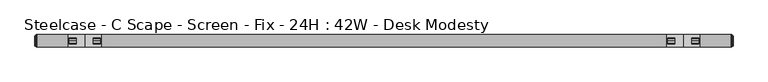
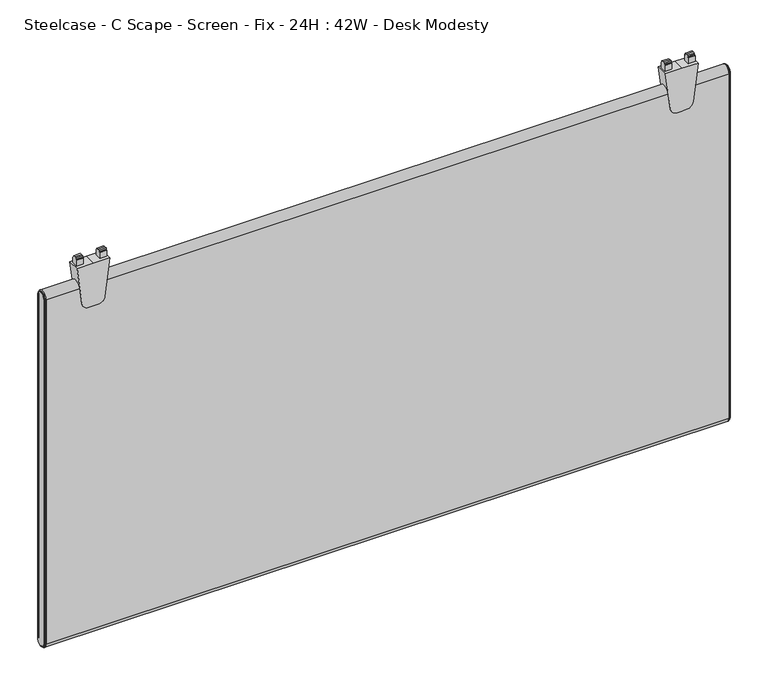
"""IFC4 building model written with IfcOpenShell, lengths in millimetres: furniture geometry, Steelcase - C Scape - Screen - Fix - 24H : 42W - Desk Modesty."""

from ifc_helpers import new_model, si_unit, point, frame, frame_2d, origin, place, context, project, spatial, polyline, circle_curve, ellipse_curve, trimmed, segment, composite_curve, outline, extrude, source, transform, mapped, element, save
from ifc_brep_helpers import plane_surface, cylinder_surface, revolved_surface, advanced_brep


def steelcase_c_scape_screen_fix_24h_42w_desk_modesty_cde4ed97(model_context):
    return source(origin(), model_context, "Body", "SolidModel", [
        extrude(outline(composite_curve([segment(polyline([(703.414888, 101.4730434), (703.414888, 76.2001674), (703.414888, 50.9272915), (643.0897579, 58.3341853)]), True, "CONTINUOUS"), segment(trimmed(circle_curve(frame_2d((644.4116282, 69.1001018)), 10.8467645), [point((643.0897579, 58.3341853))], [point((633.5648638, 69.1001018))], False, "CARTESIAN"), True, "CONTINUOUS"), segment(polyline([(633.5648638, 69.1001018), (633.5648638, 76.2001674), (633.5648638, 83.300233)]), True, "CONTINUOUS"), segment(trimmed(circle_curve(frame_2d((644.4116282, 83.300233)), 10.8467645), [point((633.5648638, 83.300233))], [point((643.0897579, 94.0661495))], False, "CARTESIAN"), True, "CONTINUOUS"), segment(polyline([(643.0897579, 94.0661495), (703.414888, 101.4730434)]), True, "CONTINUOUS")], self_intersect=False)), frame((0.0, -9.525, 0.0), z_axis=(0.0, 1.0, 0.0), x_axis=(0.0, 0.0, 1.0)), (0.0, 0.0, 1.0), 19.05),
        extrude(outline(polyline([(-4.5465975, 703.414888), (-4.5465975, 713.3208967), (-4.0139265, 714.2073252), (-2.9972008, 714.2073252), (-2.9972008, 716.4425812), (0.0, 716.534), (2.9972008, 716.4425812), (2.9972008, 714.2073252), (4.0139265, 714.2073252), (4.5465975, 713.3208967), (4.5465975, 703.414888), (0.0, 703.414888), (-4.5465975, 703.414888)])), frame((88.9267162, 0.0, 0.0), z_axis=(1.0, 0.0, 0.0), x_axis=(0.0, 1.0, 0.0)), (0.0, 0.0, 1.0), 10.7813187),
        extrude(outline(polyline([(-4.5465975, 703.414888), (-4.5465975, 713.3208967), (-4.0139265, 714.2073252), (-2.9972008, 714.2073252), (-2.9972008, 716.4425812), (0.0, 716.534), (2.9972008, 716.4425812), (2.9972008, 714.2073252), (4.0139265, 714.2073252), (4.5465975, 713.3208967), (4.5465975, 703.414888), (0.0, 703.414888), (-4.5465975, 703.414888)])), frame((52.6923, 0.0, 0.0), z_axis=(1.0, 0.0, 0.0), x_axis=(0.0, 1.0, 0.0)), (0.0, 0.0, 1.0), 10.7813187),
        extrude(outline(composite_curve([segment(polyline([(703.414888, 1015.1107132), (703.414888, 989.8378372), (703.414888, 964.5649612), (643.0897579, 971.9718551)]), True, "CONTINUOUS"), segment(trimmed(circle_curve(frame_2d((644.4116282, 982.7377716)), 10.8467645), [point((643.0897579, 971.9718551))], [point((633.5648638, 982.7377716))], False, "CARTESIAN"), True, "CONTINUOUS"), segment(polyline([(633.5648638, 982.7377716), (633.5648638, 989.8378372), (633.5648638, 996.9379028)]), True, "CONTINUOUS"), segment(trimmed(circle_curve(frame_2d((644.4116282, 996.9379028)), 10.8467645), [point((633.5648638, 996.9379028))], [point((643.0897579, 1007.7038193))], False, "CARTESIAN"), True, "CONTINUOUS"), segment(polyline([(643.0897579, 1007.7038193), (703.414888, 1015.1107132)]), True, "CONTINUOUS")], self_intersect=False)), frame((0.0, -9.525, 0.0), z_axis=(0.0, 1.0, 0.0), x_axis=(0.0, 0.0, 1.0)), (0.0, 0.0, 1.0), 19.05),
        extrude(outline(polyline([(-4.5465975, 703.414888), (-4.5465975, 713.3208967), (-4.0139265, 714.2073252), (-2.9972008, 714.2073252), (-2.9972008, 716.4425812), (0.0, 716.534), (2.9972008, 716.4425812), (2.9972008, 714.2073252), (4.0139265, 714.2073252), (4.5465975, 713.3208967), (4.5465975, 703.414888), (0.0, 703.414888), (-4.5465975, 703.414888)])), frame((1002.564386, 0.0, 0.0), z_axis=(1.0, 0.0, 0.0), x_axis=(0.0, 1.0, 0.0)), (0.0, 0.0, 1.0), 10.7813187),
        extrude(outline(polyline([(-4.5465975, 703.414888), (-4.5465975, 713.3208967), (-4.0139265, 714.2073252), (-2.9972008, 714.2073252), (-2.9972008, 716.4425812), (0.0, 716.534), (2.9972008, 716.4425812), (2.9972008, 714.2073252), (4.0139265, 714.2073252), (4.5465975, 713.3208967), (4.5465975, 703.414888), (0.0, 703.414888), (-4.5465975, 703.414888)])), frame((966.3299698, 0.0, 0.0), z_axis=(1.0, 0.0, 0.0), x_axis=(0.0, 1.0, 0.0)), (0.0, 0.0, 1.0), 10.7813187),
        advanced_brep(
        [(1063.2486613, -9.525, 668.909), (1063.2486613, 9.525, 668.909), (1063.2486613, 9.525, 103.759), (1063.2486613, -9.525, 103.759), (1066.0426613, 7.4929583, 668.909), (1066.0426613, -7.4929583, 668.909), (1066.0426613, -7.4929583, 103.759), (1066.0426613, 7.4929583, 103.759), (1065.5346545, -8.0009651, 668.909), (1065.5346545, 8.0009651, 668.909), (1064.2646613, 8.0009651, 668.909), (1064.2646613, -8.0009651, 668.909), (1064.2646613, -8.8204932, 668.909), (1064.2646613, 8.8204932, 668.909), (1064.2646613, -8.0009651, 103.759), (1065.5346545, -8.0009651, 103.759), (1064.2646613, -8.8204932, 103.759), (1064.2646613, 8.0009651, 103.759), (1065.5346545, 8.0009651, 103.759), (1064.2646613, 8.8204932, 103.759)],
        [
            (0, 1, circle_curve(frame((1063.2486613, 0.0, 668.909), z_axis=(-1.0, 0.0, 0.0), x_axis=(0.0, 1.0, 0.0)), 9.525)),
            (1, 2),
            (2, 3, circle_curve(frame((1063.2486613, 0.0, 103.759), z_axis=(-1.0, 0.0, 0.0), x_axis=(0.0, -1.0, 0.0)), 9.525)),
            (3, 0),
            (4, 5, circle_curve(frame((1066.0426613, 0.0, 668.909), z_axis=(1.0, 0.0, 0.0), x_axis=(0.0, 1.0, 0.0)), 7.4929583)),
            (5, 6),
            (6, 7, circle_curve(frame((1066.0426613, 0.0, 103.759), z_axis=(1.0, 0.0, 0.0), x_axis=(0.0, -1.0, 0.0)), 7.4929583)),
            (7, 4),
            (8, 9, circle_curve(frame((1065.5346545, 0.0, 668.909), z_axis=(-1.0, 0.0, 0.0), x_axis=(0.0, 1.0, 0.0)), 8.0009651)),
            (9, 10),
            (10, 11, circle_curve(frame((1064.2646613, 0.0, 668.909), z_axis=(1.0, 0.0, 0.0), x_axis=(0.0, 1.0, 0.0)), 8.0009651)),
            (11, 8),
            (8, 5, circle_curve(frame((1065.5346545, -7.4929583, 668.909), z_axis=(0.0, 0.0, 1.0), x_axis=(0.0, -1.0, 0.0)), 0.5080068)),
            (4, 9, circle_curve(frame((1065.5346545, 7.4929583, 668.909), z_axis=(0.0, 0.0, 1.0), x_axis=(0.0, 1.0, 0.0)), 0.5080068)),
            (12, 13, circle_curve(frame((1064.2646613, 0.0, 668.909), z_axis=(-1.0, 0.0, 0.0), x_axis=(0.0, 1.0, 0.0)), 8.8204932)),
            (13, 1, circle_curve(frame((1063.1806211, 8.3420139, 668.909), z_axis=(0.0, 0.0, 1.0), x_axis=(0.0, 1.0, 0.0)), 1.1849411)),
            (0, 12, circle_curve(frame((1063.1806211, -8.3420139, 668.909), z_axis=(0.0, 0.0, 1.0), x_axis=(0.0, -1.0, 0.0)), 1.1849411)),
            (11, 14),
            (14, 15),
            (15, 8),
            (15, 6, circle_curve(frame((1065.5346545, -7.4929583, 103.759), z_axis=(0.0, 0.0, 1.0), x_axis=(0.0, -1.0, 0.0)), 0.5080068)),
            (3, 16, circle_curve(frame((1063.1806211, -8.3420139, 103.759), z_axis=(0.0, 0.0, 1.0), x_axis=(0.0, -1.0, 0.0)), 1.1849411)),
            (16, 12),
            (14, 17, circle_curve(frame((1064.2646613, 0.0, 103.759), z_axis=(1.0, 0.0, 0.0), x_axis=(0.0, -1.0, 0.0)), 8.0009651)),
            (17, 18),
            (18, 15, circle_curve(frame((1065.5346545, 0.0, 103.759), z_axis=(-1.0, 0.0, 0.0), x_axis=(0.0, -1.0, 0.0)), 8.0009651)),
            (18, 7, circle_curve(frame((1065.5346545, 7.4929583, 103.759), z_axis=(0.0, 0.0, -1.0), x_axis=(0.0, 1.0, 0.0)), 0.5080068)),
            (2, 19, circle_curve(frame((1063.1806211, 8.3420139, 103.759), z_axis=(0.0, 0.0, -1.0), x_axis=(0.0, 1.0, 0.0)), 1.1849411)),
            (19, 16, circle_curve(frame((1064.2646613, 0.0, 103.759), z_axis=(-1.0, 0.0, 0.0), x_axis=(0.0, -1.0, 0.0)), 8.8204932)),
            (9, 18),
            (17, 10),
            (13, 19),
        ],
        [
            plane_surface(frame((1063.2486613, -6.3509705, 668.909), z_axis=(-1.0, 0.0, 0.0), x_axis=(0.0, 0.0, 1.0))),
            plane_surface(frame((1066.0426613, -6.3509705, 668.909), z_axis=(1.0, 0.0, 0.0), x_axis=(0.0, 0.0, -1.0))),
            cylinder_surface(frame((1063.2486613, 0.0, 668.909), z_axis=(1.0, 0.0, 0.0), x_axis=(0.0, 1.0, 0.0)), 8.0009651),
            revolved_surface(trimmed(ellipse_curve(frame((1065.5346545, 7.4929583, 668.909), z_axis=(0.0, 0.0, -1.0), x_axis=(0.0, 1.0, 0.0)), 0.5080068, 0.5080068), [point((1065.5346545, 8.0009651, 668.909))], [point((1066.0426613, 7.4929583, 668.909))], True, "CARTESIAN"), (1063.2486613, 0.0, 668.909), (1.0, 0.0, 0.0)),
            revolved_surface(trimmed(ellipse_curve(frame((1063.1806211, 8.3420139, 668.909), z_axis=(0.0, 0.0, -1.0), x_axis=(0.0, 1.0, 0.0)), 1.1849411, 1.1849411), [point((1063.2486613, 9.525, 668.909))], [point((1064.2646613, 8.8204932, 668.909))], True, "CARTESIAN"), (1063.2486613, 0.0, 668.909), (1.0, 0.0, 0.0)),
            plane_surface(frame((1064.2646613, -8.0009651, 668.909), z_axis=(0.0, -1.0, 0.0), x_axis=(0.0, 0.0, -1.0))),
            cylinder_surface(frame((1065.5346545, -7.4929583, 668.909), z_axis=(0.0, 0.0, 1.0), x_axis=(0.0, -1.0, 0.0)), 0.5080068),
            cylinder_surface(frame((1063.1806211, -8.3420139, 668.909), z_axis=(0.0, 0.0, 1.0), x_axis=(0.0, -1.0, 0.0)), 1.1849411),
            cylinder_surface(frame((1063.2486613, 0.0, 103.759), z_axis=(1.0, 0.0, 0.0), x_axis=(0.0, -1.0, 0.0)), 8.0009651),
            revolved_surface(trimmed(ellipse_curve(frame((1065.5346545, -7.4929583, 103.759), z_axis=(0.0, 0.0, 1.0), x_axis=(0.0, -1.0, 0.0)), 0.5080068, 0.5080068), [point((1065.5346545, -8.0009651, 103.759))], [point((1066.0426613, -7.4929583, 103.759))], True, "CARTESIAN"), (1063.2486613, 0.0, 103.759), (1.0, 0.0, 0.0)),
            revolved_surface(trimmed(ellipse_curve(frame((1063.1806211, -8.3420139, 103.759), z_axis=(0.0, 0.0, 1.0), x_axis=(0.0, -1.0, 0.0)), 1.1849411, 1.1849411), [point((1063.2486613, -9.525, 103.759))], [point((1064.2646613, -8.8204932, 103.759))], True, "CARTESIAN"), (1063.2486613, 0.0, 103.759), (1.0, 0.0, 0.0)),
            plane_surface(frame((1064.2646613, 8.0009651, 103.759), z_axis=(0.0, 1.0, 0.0), x_axis=(0.0, 0.0, 1.0))),
            cylinder_surface(frame((1065.5346545, 7.4929583, 103.759), z_axis=(0.0, 0.0, -1.0), x_axis=(0.0, 1.0, 0.0)), 0.5080068),
            cylinder_surface(frame((1063.1806211, 8.3420139, 103.759), z_axis=(0.0, 0.0, -1.0), x_axis=(0.0, 1.0, 0.0)), 1.1849411),
            plane_surface(frame((1064.2646613, 8.8204932, 103.759), z_axis=(1.0, 0.0, 0.0), x_axis=(0.0, 0.0, 1.0))),
        ],
        [
            (0, [[1, 2, 3, 4]]),
            (1, [[5, 6, 7, 8]]),
            (2, [[9, 10, 11, 12]]),
            (3, [[-9, 13, -5, 14]]),
            (4, [[15, 16, -1, 17]]),
            (5, [[-12, 18, 19, 20]]),
            (6, [[-13, -20, 21, -6]]),
            (7, [[-17, -4, 22, 23]]),
            (8, [[-19, 24, 25, 26]]),
            (9, [[-21, -26, 27, -7]]),
            (10, [[-22, -3, 28, 29]]),
            (11, [[-10, 30, -25, 31]]),
            (12, [[-14, -8, -27, -30]]),
            (13, [[-16, 32, -28, -2]]),
            (14, [[-15, -23, -29, -32], [-11, -31, -24, -18]]),
        ],
    ),
        advanced_brep(
        [(2.7940155, 9.525, 668.909), (2.7940155, -9.525, 668.909), (2.7940155, -9.525, 103.759), (2.7940155, 9.525, 103.759), (0.0, -7.4929583, 668.909), (0.0, 7.4929583, 668.909), (0.0, 7.4929583, 103.759), (0.0, -7.4929583, 103.759), (1.778, 8.8204932, 668.909), (1.778, -8.8204932, 668.909), (0.5080068, -8.0009651, 668.909), (0.5080068, 8.0009651, 668.909), (1.778, -8.0009651, 668.909), (1.778, 8.0009651, 668.909), (1.778, -8.8204932, 103.759), (0.5080068, -8.0009651, 103.759), (1.778, -8.0009651, 103.759), (1.778, 8.8204932, 103.759), (0.5080068, 8.0009651, 103.759), (1.778, 8.0009651, 103.759)],
        [
            (0, 1, circle_curve(frame((2.7940155, 0.0, 668.909), z_axis=(1.0, 0.0, 0.0), x_axis=(0.0, 1.0, 0.0)), 9.525)),
            (1, 2),
            (2, 3, circle_curve(frame((2.7940155, 0.0, 103.759), z_axis=(1.0, 0.0, 0.0), x_axis=(0.0, -1.0, 0.0)), 9.525)),
            (3, 0),
            (4, 5, circle_curve(frame((0.0, 0.0, 668.909), z_axis=(-1.0, 0.0, 0.0), x_axis=(0.0, 1.0, 0.0)), 7.4929583)),
            (5, 6),
            (6, 7, circle_curve(frame((0.0, 0.0, 103.759), z_axis=(-1.0, 0.0, 0.0), x_axis=(0.0, -1.0, 0.0)), 7.4929583)),
            (7, 4),
            (0, 8, circle_curve(frame((2.8620402, 8.3420139, 668.909), z_axis=(0.0, 0.0, 1.0), x_axis=(0.0, -1.0, 0.0)), 1.1849411)),
            (8, 9, circle_curve(frame((1.778, 0.0, 668.909), z_axis=(1.0, 0.0, 0.0), x_axis=(0.0, 1.0, 0.0)), 8.8204932)),
            (9, 1, circle_curve(frame((2.8620402, -8.3420139, 668.909), z_axis=(0.0, 0.0, 1.0), x_axis=(0.0, 1.0, 0.0)), 1.1849411)),
            (10, 11, circle_curve(frame((0.5080068, 0.0, 668.909), z_axis=(-1.0, 0.0, 0.0), x_axis=(0.0, 1.0, 0.0)), 8.0009651)),
            (11, 5, circle_curve(frame((0.5080068, 7.4929583, 668.909), z_axis=(0.0, 0.0, 1.0), x_axis=(0.0, -1.0, 0.0)), 0.5080068)),
            (4, 10, circle_curve(frame((0.5080068, -7.4929583, 668.909), z_axis=(0.0, 0.0, 1.0), x_axis=(0.0, 1.0, 0.0)), 0.5080068)),
            (10, 12),
            (12, 13, circle_curve(frame((1.778, 0.0, 668.909), z_axis=(-1.0, 0.0, 0.0), x_axis=(0.0, 1.0, 0.0)), 8.0009651)),
            (13, 11),
            (9, 14),
            (14, 2, circle_curve(frame((2.8620402, -8.3420139, 103.759), z_axis=(0.0, 0.0, 1.0), x_axis=(0.0, 1.0, 0.0)), 1.1849411)),
            (7, 15, circle_curve(frame((0.5080068, -7.4929583, 103.759), z_axis=(0.0, 0.0, 1.0), x_axis=(0.0, 1.0, 0.0)), 0.5080068)),
            (15, 10),
            (15, 16),
            (16, 12),
            (14, 17, circle_curve(frame((1.778, 0.0, 103.759), z_axis=(1.0, 0.0, 0.0), x_axis=(0.0, -1.0, 0.0)), 8.8204932)),
            (17, 3, circle_curve(frame((2.8620402, 8.3420139, 103.759), z_axis=(0.0, 0.0, -1.0), x_axis=(0.0, -1.0, 0.0)), 1.1849411)),
            (6, 18, circle_curve(frame((0.5080068, 7.4929583, 103.759), z_axis=(0.0, 0.0, -1.0), x_axis=(0.0, -1.0, 0.0)), 0.5080068)),
            (18, 15, circle_curve(frame((0.5080068, 0.0, 103.759), z_axis=(-1.0, 0.0, 0.0), x_axis=(0.0, -1.0, 0.0)), 8.0009651)),
            (18, 19),
            (19, 16, circle_curve(frame((1.778, 0.0, 103.759), z_axis=(-1.0, 0.0, 0.0), x_axis=(0.0, -1.0, 0.0)), 8.0009651)),
            (8, 17),
            (19, 13),
            (11, 18),
        ],
        [
            plane_surface(frame((2.7940155, -6.3509705, 668.909), z_axis=(1.0, 0.0, 0.0), x_axis=(0.0, 0.0, -1.0))),
            plane_surface(frame((0.0, -6.3509705, 668.909), z_axis=(-1.0, 0.0, 0.0), x_axis=(0.0, 0.0, 1.0))),
            revolved_surface(trimmed(ellipse_curve(frame((2.8620402, 8.3420139, 668.909), z_axis=(0.0, 0.0, -1.0), x_axis=(0.0, -1.0, 0.0)), 1.1849411, 1.1849411), [point((1.778, 8.8204932, 668.909))], [point((2.794, 9.525, 668.909))], True, "CARTESIAN"), (2.794, 0.0, 668.909), (1.0, 0.0, 0.0)),
            revolved_surface(trimmed(ellipse_curve(frame((0.5080068, 7.4929583, 668.909), z_axis=(0.0, 0.0, -1.0), x_axis=(0.0, -1.0, 0.0)), 0.5080068, 0.5080068), [point((0.0, 7.4929583, 668.909))], [point((0.5080068, 8.0009651, 668.909))], True, "CARTESIAN"), (2.794, 0.0, 668.909), (1.0, 0.0, 0.0)),
            cylinder_surface(frame((2.794, 0.0, 668.909), z_axis=(1.0, 0.0, 0.0), x_axis=(0.0, 1.0, 0.0)), 8.0009651),
            cylinder_surface(frame((2.8620402, -8.3420139, 668.909), z_axis=(0.0, 0.0, 1.0), x_axis=(0.0, 1.0, 0.0)), 1.1849411),
            cylinder_surface(frame((0.5080068, -7.4929583, 668.909), z_axis=(0.0, 0.0, 1.0), x_axis=(0.0, 1.0, 0.0)), 0.5080068),
            plane_surface(frame((0.5080068, -8.0009651, 668.909), z_axis=(0.0, -1.0, 0.0), x_axis=(0.0, 0.0, -1.0))),
            revolved_surface(trimmed(ellipse_curve(frame((2.8620402, -8.3420139, 103.759), z_axis=(0.0, 0.0, 1.0), x_axis=(0.0, 1.0, 0.0)), 1.1849411, 1.1849411), [point((1.778, -8.8204932, 103.759))], [point((2.794, -9.525, 103.759))], True, "CARTESIAN"), (2.794, 0.0, 103.759), (1.0, 0.0, 0.0)),
            revolved_surface(trimmed(ellipse_curve(frame((0.5080068, -7.4929583, 103.759), z_axis=(0.0, 0.0, 1.0), x_axis=(0.0, 1.0, 0.0)), 0.5080068, 0.5080068), [point((0.0, -7.4929583, 103.759))], [point((0.5080068, -8.0009651, 103.759))], True, "CARTESIAN"), (2.794, 0.0, 103.759), (1.0, 0.0, 0.0)),
            cylinder_surface(frame((2.794, 0.0, 103.759), z_axis=(1.0, 0.0, 0.0), x_axis=(0.0, -1.0, 0.0)), 8.0009651),
            plane_surface(frame((1.778, 8.0009651, 103.759), z_axis=(-1.0, 0.0, 0.0), x_axis=(0.0, 0.0, 1.0))),
            cylinder_surface(frame((2.8620402, 8.3420139, 103.759), z_axis=(0.0, 0.0, -1.0), x_axis=(0.0, -1.0, 0.0)), 1.1849411),
            cylinder_surface(frame((0.5080068, 7.4929583, 103.759), z_axis=(0.0, 0.0, -1.0), x_axis=(0.0, -1.0, 0.0)), 0.5080068),
            plane_surface(frame((0.5080068, 8.0009651, 103.759), z_axis=(0.0, 1.0, 0.0), x_axis=(0.0, 0.0, 1.0))),
        ],
        [
            (0, [[1, 2, 3, 4]]),
            (1, [[5, 6, 7, 8]]),
            (2, [[-1, 9, 10, 11]]),
            (3, [[12, 13, -5, 14]]),
            (4, [[-12, 15, 16, 17]]),
            (5, [[-11, 18, 19, -2]]),
            (6, [[-14, -8, 20, 21]]),
            (7, [[-15, -21, 22, 23]]),
            (8, [[-19, 24, 25, -3]]),
            (9, [[-20, -7, 26, 27]]),
            (10, [[-22, -27, 28, 29]]),
            (11, [[-10, 30, -24, -18], [-16, -23, -29, 31]]),
            (12, [[-9, -4, -25, -30]]),
            (13, [[-13, 32, -26, -6]]),
            (14, [[-17, -31, -28, -32]]),
        ],
    ),
        extrude(outline(composite_curve([segment(trimmed(circle_curve(frame_2d((0.0, 668.909)), 9.525), [point((-9.525, 668.909))], [point((9.525, 668.909))], False, "CARTESIAN"), True, "CONTINUOUS"), segment(polyline([(9.525, 668.909), (9.525, 103.759)]), True, "CONTINUOUS"), segment(trimmed(circle_curve(frame_2d((0.0, 103.759)), 9.525), [point((9.525, 103.759))], [point((-9.525, 103.759))], False, "CARTESIAN"), True, "CONTINUOUS"), segment(polyline([(-9.525, 103.759), (-9.525, 668.909)]), True, "CONTINUOUS")], self_intersect=False)), frame((2.794, 0.0, 0.0), z_axis=(1.0, 0.0, 0.0), x_axis=(0.0, 1.0, 0.0)), (0.0, 0.0, 1.0), 1060.4546613),
    ])


if __name__ == "__main__":
    model = new_model("IFC4")
    model_context = context("Model", 3, world=origin())
    ifc_project = project(units=[si_unit("LENGTHUNIT", "METRE", prefix="MILLI")], contexts=[model_context])
    site = spatial("IfcSite", under=ifc_project)
    building = spatial("IfcBuilding", under=site)
    placement = place(None, origin())
    steelcase_c_scape_screen_fix_24h_42w_desk_modesty_shape = steelcase_c_scape_screen_fix_24h_42w_desk_modesty_cde4ed97(model_context)
    element("IfcFurniture", 1, ObjectType="Steelcase - C Scape - Screen - Fix - 24H : 42W - Desk Modesty", at=placement, inside=building, context=model_context, shape_type="MappedRepresentation", body=[
        mapped(steelcase_c_scape_screen_fix_24h_42w_desk_modesty_shape, transform((0.0, 0.0, 0.0), x_axis=(1.0, 0.0, 0.0), y_axis=(0.0, 1.0, 0.0), z_axis=(0.0, 0.0, 1.0))),
    ])
    save(model, "model.ifc")
